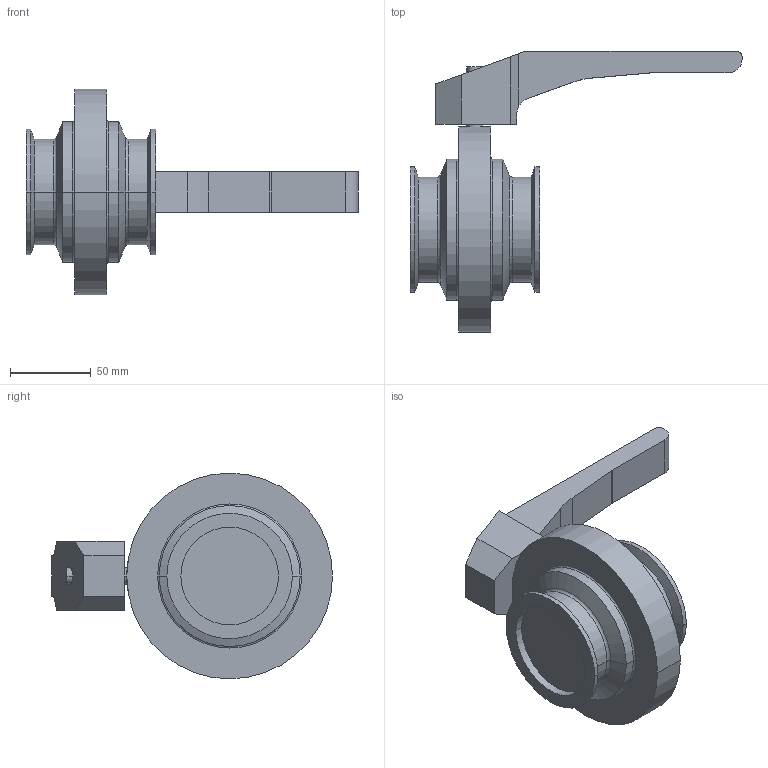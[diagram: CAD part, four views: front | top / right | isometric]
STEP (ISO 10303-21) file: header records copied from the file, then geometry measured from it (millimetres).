
FILE_DESCRIPTION(('OneSpaceDesigner STEP Export'),'2;1');
FILE_NAME('SV1-2.5zoll-H-12CL-vereint.stp','2007-04-20T11:32:52',(''),(''),'OneSpace Designer STEP processor for AP214 (Solid Model)','OneSpace Modeling 15.00 06-Feb-2007 (C) CoCreate Software GmbH','');
FILE_SCHEMA(('AUTOMOTIVE_DESIGN { 1 0 10303 214 1 1 1 1 }'));
Length unit declared in the file: millimetre
Products named in the file (3): Handhebel-SV-40-100.1; SV1-2.5zoll-H-12CL; SV1-2.5zoll-H-12CL-vereint
Assembly tree (2 placements, depth 2):
  SV1-2.5zoll-H-12CL-vereint
    SV1-2.5zoll-H-12CL
    Handhebel-SV-40-100.1
Bounding box: 205 x 173.5 x 127 mm (x, y, z)
Volume: 611383.7 mm3; surface area: 72847.2 mm2
Topology: 2 solids, 2 shells, 68 faces, 151 edges, 92 vertices
Faces by surface type: cylinder 27, plane 25, torus 8, cone 8
Entity records: 2124 total; most frequent: CARTESIAN_POINT 668, ORIENTED_EDGE 302, DIRECTION 271, EDGE_CURVE 151, AXIS2_PLACEMENT_3D 97, VERTEX_POINT 92, VECTOR 77, LINE 77
